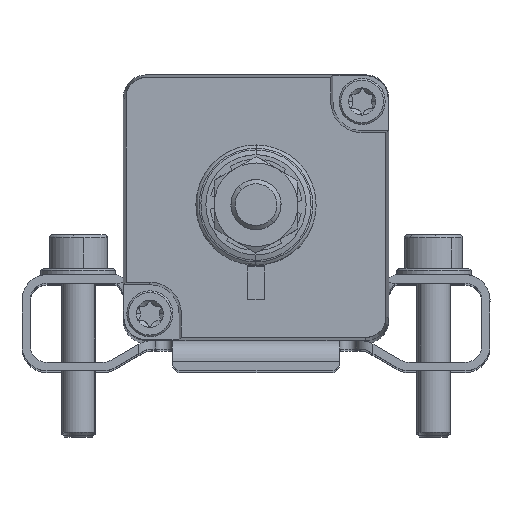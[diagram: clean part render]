
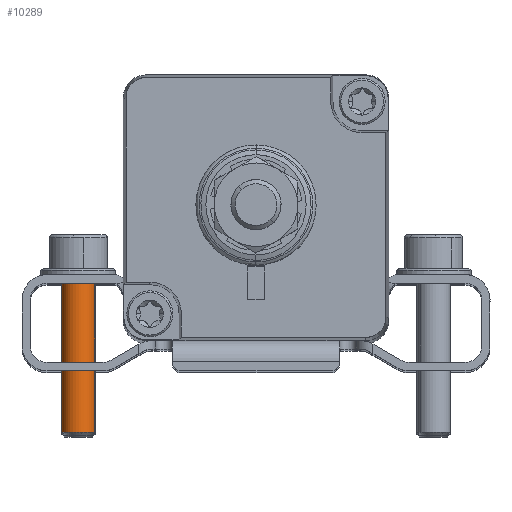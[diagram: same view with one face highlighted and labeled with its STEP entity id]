
A CAD part, top view. The second image highlights one B-rep face of the part: STEP entity #10289.
In plain terms, the highlighted cylindrical face has radius 2 mm (diameter 4 mm), a partial arc.
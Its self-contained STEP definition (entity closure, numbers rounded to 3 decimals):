
#9688 = VERTEX_POINT ( 'NONE', #33133 ) ;
#9689 = VERTEX_POINT ( 'NONE', #33132 ) ;
#9728 = VERTEX_POINT ( 'NONE', #33259 ) ;
#9752 = VERTEX_POINT ( 'NONE', #33345 ) ;
#9759 = EDGE_CURVE ( 'NONE', #9689, #9688, #33389, .T. ) ;
#9800 = EDGE_CURVE ( 'NONE', #9688, #9803, #33494, .T. ) ;
#9803 = VERTEX_POINT ( 'NONE', #33489 ) ;
#9854 = EDGE_LOOP ( 'NONE', ( #27144, #27148, #27147, #27145, #27151 ) ) ;
#9859 = EDGE_CURVE ( 'NONE', #9689, #9728, #33600, .T. ) ;
#9936 = EDGE_CURVE ( 'NONE', #9752, #9803, #33835, .T. ) ;
#10289 = ADVANCED_FACE ( 'NONE', ( #34160 ), #34144, .T. ) ;
#10450 = EDGE_CURVE ( 'NONE', #9728, #9752, #34221, .T. ) ;
#27144 = ORIENTED_EDGE ( 'NONE', *, *, #9859, .F. ) ;
#27145 = ORIENTED_EDGE ( 'NONE', *, *, #9936, .F. ) ;
#27147 = ORIENTED_EDGE ( 'NONE', *, *, #9800, .T. ) ;
#27148 = ORIENTED_EDGE ( 'NONE', *, *, #9759, .T. ) ;
#27151 = ORIENTED_EDGE ( 'NONE', *, *, #10450, .F. ) ;
#33132 = CARTESIAN_POINT ( 'NONE',  ( -19.284, -7.178, 115.881 ) ) ;
#33133 = CARTESIAN_POINT ( 'NONE',  ( -23.216, -7.178, 116.619 ) ) ;
#33259 = CARTESIAN_POINT ( 'NONE',  ( -19.284, -26.628, 115.881 ) ) ;
#33345 = CARTESIAN_POINT ( 'NONE',  ( -20.881, -26.628, 118.216 ) ) ;
#33386 = DIRECTION ( 'NONE',  ( -0.983, 0., 0.184 ) ) ;
#33387 = DIRECTION ( 'NONE',  ( 0., -1., 0. ) ) ;
#33388 = AXIS2_PLACEMENT_3D ( 'NONE', #33402, #33387, #33386 ) ;
#33389 = CIRCLE ( 'NONE', #33388, 2. ) ;
#33402 = CARTESIAN_POINT ( 'NONE',  ( -21.25, -7.178, 116.25 ) ) ;
#33489 = CARTESIAN_POINT ( 'NONE',  ( -23.216, -26.628, 116.619 ) ) ;
#33490 = DIRECTION ( 'NONE',  ( 0., -1., 0. ) ) ;
#33491 = VECTOR ( 'NONE', #33490, 1000. ) ;
#33492 = CARTESIAN_POINT ( 'NONE',  ( -23.216, -7.178, 116.619 ) ) ;
#33494 = LINE ( 'NONE', #33492, #33491 ) ;
#33597 = DIRECTION ( 'NONE',  ( 0., -1., 0. ) ) ;
#33598 = VECTOR ( 'NONE', #33597, 1000. ) ;
#33599 = CARTESIAN_POINT ( 'NONE',  ( -19.284, -7.178, 115.881 ) ) ;
#33600 = LINE ( 'NONE', #33599, #33598 ) ;
#33831 = DIRECTION ( 'NONE',  ( -0.983, 0., 0.184 ) ) ;
#33832 = DIRECTION ( 'NONE',  ( 0., -1., 0. ) ) ;
#33833 = CARTESIAN_POINT ( 'NONE',  ( -21.25, -26.628, 116.25 ) ) ;
#33834 = AXIS2_PLACEMENT_3D ( 'NONE', #33833, #33832, #33831 ) ;
#33835 = CIRCLE ( 'NONE', #33834, 2. ) ;
#34141 = DIRECTION ( 'NONE',  ( -0.983, 0., 0.184 ) ) ;
#34142 = DIRECTION ( 'NONE',  ( 0., -1., 0. ) ) ;
#34143 = AXIS2_PLACEMENT_3D ( 'NONE', #34145, #34142, #34141 ) ;
#34144 = CYLINDRICAL_SURFACE ( 'NONE', #34143, 2. ) ;
#34145 = CARTESIAN_POINT ( 'NONE',  ( -21.25, -7.178, 116.25 ) ) ;
#34160 = FACE_OUTER_BOUND ( 'NONE', #9854, .T. ) ;
#34212 = DIRECTION ( 'NONE',  ( -0.983, 0., 0.184 ) ) ;
#34213 = DIRECTION ( 'NONE',  ( 0., -1., 0. ) ) ;
#34214 = CARTESIAN_POINT ( 'NONE',  ( -21.25, -26.628, 116.25 ) ) ;
#34215 = AXIS2_PLACEMENT_3D ( 'NONE', #34214, #34213, #34212 ) ;
#34221 = CIRCLE ( 'NONE', #34215, 2. ) ;
